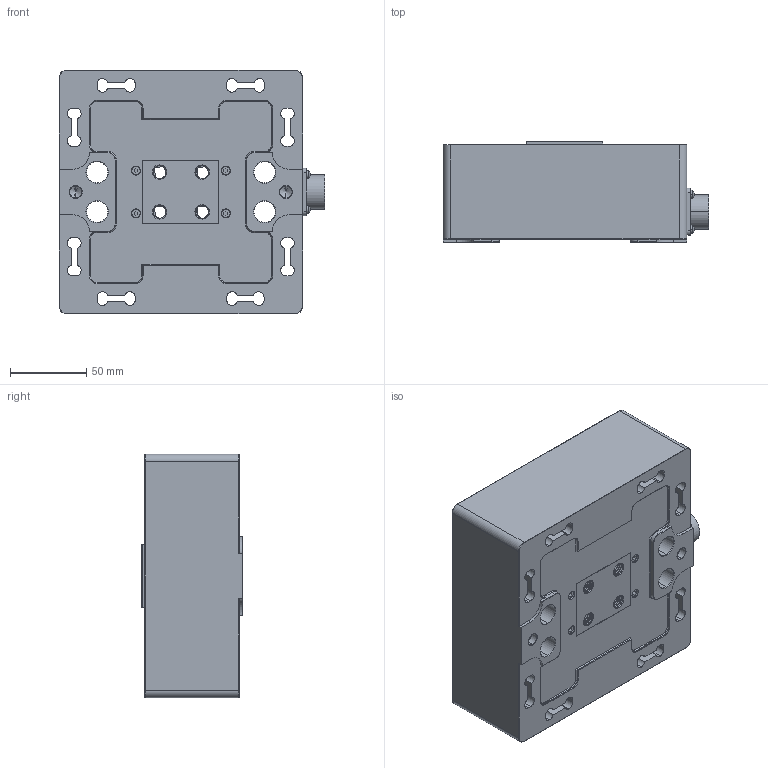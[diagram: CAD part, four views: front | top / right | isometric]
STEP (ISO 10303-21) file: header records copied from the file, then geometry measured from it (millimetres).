
FILE_DESCRIPTION (( 'STEP AP203' ), '1' );
FILE_NAME ('LCM04.STEP', '2024-12-11T09:21:31', ( '' ), ( '' ), 'SwSTEP 2.0', 'SolidWorks 2019', '' );
FILE_SCHEMA (( 'CONFIG_CONTROL_DESIGN' ));
Products named in the file (1): LCM04
Bounding box: 174.6 x 66 x 160 mm (x, y, z)
Volume: 1425921.7 mm3; surface area: 151592.4 mm2
Topology: 1 solids, 1 shells, 951 faces, 2514 edges, 1616 vertices
Faces by surface type: cylinder 534, plane 297, cone 104, bspline 16
Entity records: 52717 total; most frequent: CARTESIAN_POINT 30798, ORIENTED_EDGE 5012, DIRECTION 4166, EDGE_CURVE 2506, VERTEX_POINT 1616, AXIS2_PLACEMENT_3D 1436, LINE 1294, VECTOR 1294
